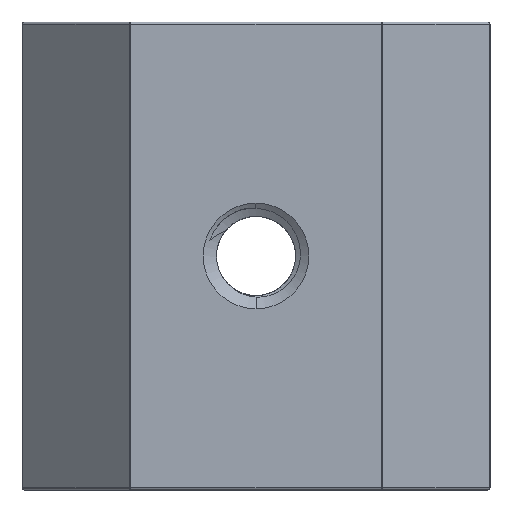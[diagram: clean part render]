
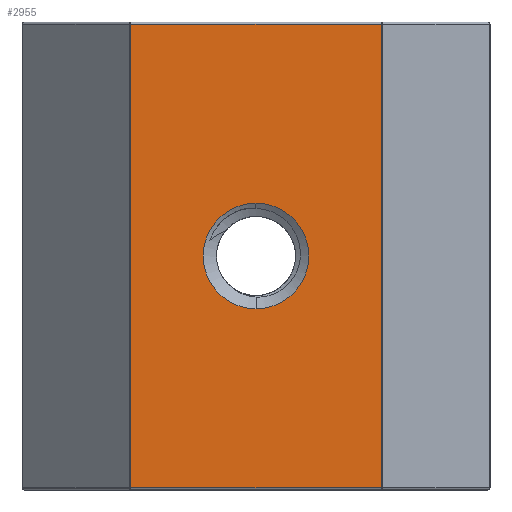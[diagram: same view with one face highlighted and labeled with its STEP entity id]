
A CAD part, front view. The second image highlights one B-rep face of the part: STEP entity #2955.
In plain terms, the highlighted planar face has unit normal (0, -1, 0).
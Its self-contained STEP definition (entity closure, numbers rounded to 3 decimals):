
#5 = EDGE_CURVE ( 'NONE', #5157, #4337, #3554, .T. ) ;
#175 = DIRECTION ( 'NONE',  ( 0., 1., 0. ) ) ;
#502 = CARTESIAN_POINT ( 'NONE',  ( -9.75, -4.75, 9.65 ) ) ;
#520 = ORIENTED_EDGE ( 'NONE', *, *, #2193, .T. ) ;
#561 = LINE ( 'NONE', #502, #2407 ) ;
#662 = CARTESIAN_POINT ( 'NONE',  ( 0., -4.75, 0. ) ) ;
#734 = VERTEX_POINT ( 'NONE', #4243 ) ;
#779 = ORIENTED_EDGE ( 'NONE', *, *, #5695, .T. ) ;
#793 = AXIS2_PLACEMENT_3D ( 'NONE', #5307, #175, #4652 ) ;
#992 = AXIS2_PLACEMENT_3D ( 'NONE', #662, #3161, #5239 ) ;
#995 = DIRECTION ( 'NONE',  ( 0., 0., 1. ) ) ;
#1099 = DIRECTION ( 'NONE',  ( -1., 0., 0. ) ) ;
#1144 = FACE_OUTER_BOUND ( 'NONE', #4566, .T. ) ;
#1435 = VECTOR ( 'NONE', #1522, 1000. ) ;
#1522 = DIRECTION ( 'NONE',  ( 0., 0., -1. ) ) ;
#1537 = CARTESIAN_POINT ( 'NONE',  ( 5.209, -4.75, 9.75 ) ) ;
#1616 = CARTESIAN_POINT ( 'NONE',  ( 0., -4.75, -2.2 ) ) ;
#1749 = VECTOR ( 'NONE', #6683, 1000. ) ;
#2049 = CARTESIAN_POINT ( 'NONE',  ( -5.209, -4.75, -9.65 ) ) ;
#2193 = EDGE_CURVE ( 'NONE', #2489, #2846, #4131, .T. ) ;
#2407 = VECTOR ( 'NONE', #1099, 1000. ) ;
#2442 = CARTESIAN_POINT ( 'NONE',  ( 5.209, -4.75, -9.65 ) ) ;
#2487 = DIRECTION ( 'NONE',  ( 0., 1., 0. ) ) ;
#2489 = VERTEX_POINT ( 'NONE', #4250 ) ;
#2606 = ORIENTED_EDGE ( 'NONE', *, *, #5655, .T. ) ;
#2608 = AXIS2_PLACEMENT_3D ( 'NONE', #5062, #2487, #6015 ) ;
#2846 = VERTEX_POINT ( 'NONE', #1616 ) ;
#2955 = ADVANCED_FACE ( 'NONE', ( #1144, #5717 ), #4722, .F. ) ;
#2986 = CARTESIAN_POINT ( 'NONE',  ( 5.25, -4.75, -9.65 ) ) ;
#3161 = DIRECTION ( 'NONE',  ( 0., 1., 0. ) ) ;
#3304 = EDGE_LOOP ( 'NONE', ( #520, #779 ) ) ;
#3483 = ORIENTED_EDGE ( 'NONE', *, *, #4397, .T. ) ;
#3554 = LINE ( 'NONE', #1537, #5869 ) ;
#4119 = CARTESIAN_POINT ( 'NONE',  ( -5.209, -4.75, 9.75 ) ) ;
#4131 = CIRCLE ( 'NONE', #992, 2.2 ) ;
#4243 = CARTESIAN_POINT ( 'NONE',  ( -5.209, -4.75, 9.65 ) ) ;
#4250 = CARTESIAN_POINT ( 'NONE',  ( 0., -4.75, 2.2 ) ) ;
#4337 = VERTEX_POINT ( 'NONE', #5560 ) ;
#4397 = EDGE_CURVE ( 'NONE', #734, #5522, #5623, .T. ) ;
#4435 = ORIENTED_EDGE ( 'NONE', *, *, #6411, .T. ) ;
#4566 = EDGE_LOOP ( 'NONE', ( #2606, #5916, #4435, #3483 ) ) ;
#4652 = DIRECTION ( 'NONE',  ( 0., 0., 1. ) ) ;
#4722 = PLANE ( 'NONE',  #793 ) ;
#5029 = LINE ( 'NONE', #2986, #1749 ) ;
#5062 = CARTESIAN_POINT ( 'NONE',  ( 0., -4.75, 0. ) ) ;
#5157 = VERTEX_POINT ( 'NONE', #2442 ) ;
#5239 = DIRECTION ( 'NONE',  ( 0., 0., 1. ) ) ;
#5307 = CARTESIAN_POINT ( 'NONE',  ( -9.75, -4.75, 9.75 ) ) ;
#5522 = VERTEX_POINT ( 'NONE', #2049 ) ;
#5560 = CARTESIAN_POINT ( 'NONE',  ( 5.209, -4.75, 9.65 ) ) ;
#5623 = LINE ( 'NONE', #4119, #1435 ) ;
#5655 = EDGE_CURVE ( 'NONE', #5522, #5157, #5029, .T. ) ;
#5695 = EDGE_CURVE ( 'NONE', #2846, #2489, #6400, .T. ) ;
#5717 = FACE_BOUND ( 'NONE', #3304, .T. ) ;
#5869 = VECTOR ( 'NONE', #995, 1000. ) ;
#5916 = ORIENTED_EDGE ( 'NONE', *, *, #5, .T. ) ;
#6015 = DIRECTION ( 'NONE',  ( 0., 0., 1. ) ) ;
#6400 = CIRCLE ( 'NONE', #2608, 2.2 ) ;
#6411 = EDGE_CURVE ( 'NONE', #4337, #734, #561, .T. ) ;
#6683 = DIRECTION ( 'NONE',  ( 1., 0., 0. ) ) ;
